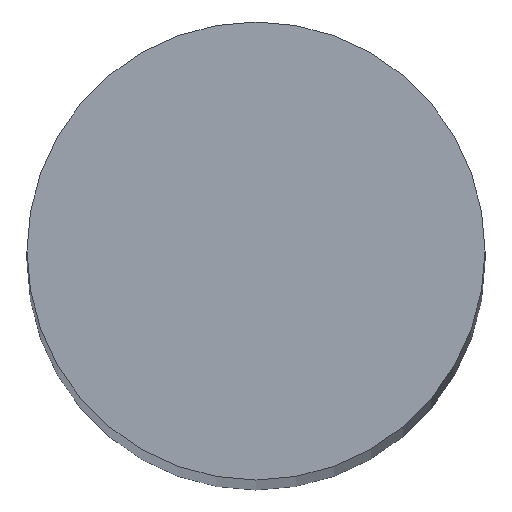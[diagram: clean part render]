
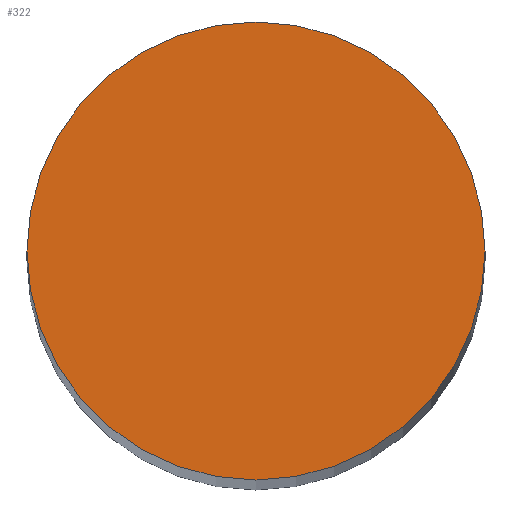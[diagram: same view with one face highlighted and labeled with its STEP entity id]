
A CAD part, top view. The second image highlights one B-rep face of the part: STEP entity #322.
In plain terms, the highlighted planar face has unit normal (0, 0, 1).
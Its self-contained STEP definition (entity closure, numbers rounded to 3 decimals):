
#34 = AXIS2_PLACEMENT_3D ( 'NONE', #234, #197, #290 ) ;
#53 = FACE_OUTER_BOUND ( 'NONE', #180, .T. ) ;
#79 = CARTESIAN_POINT ( 'NONE',  ( 6., 0., 150. ) ) ;
#109 = VERTEX_POINT ( 'NONE', #79 ) ;
#116 = CARTESIAN_POINT ( 'NONE',  ( 0., 0., 150. ) ) ;
#120 = AXIS2_PLACEMENT_3D ( 'NONE', #116, #328, #168 ) ;
#135 = ORIENTED_EDGE ( 'NONE', *, *, #152, .T. ) ;
#152 = EDGE_CURVE ( 'NONE', #109, #109, #307, .T. ) ;
#168 = DIRECTION ( 'NONE',  ( 1., 0., 0. ) ) ;
#180 = EDGE_LOOP ( 'NONE', ( #135 ) ) ;
#197 = DIRECTION ( 'NONE',  ( 0., 0., 1. ) ) ;
#234 = CARTESIAN_POINT ( 'NONE',  ( 0., 0., 150. ) ) ;
#287 = PLANE ( 'NONE',  #34 ) ;
#290 = DIRECTION ( 'NONE',  ( 1., 0., 0. ) ) ;
#307 = CIRCLE ( 'NONE', #120, 6. ) ;
#322 = ADVANCED_FACE ( 'NONE', ( #53 ), #287, .T. ) ;
#328 = DIRECTION ( 'NONE',  ( 0., 0., 1. ) ) ;
